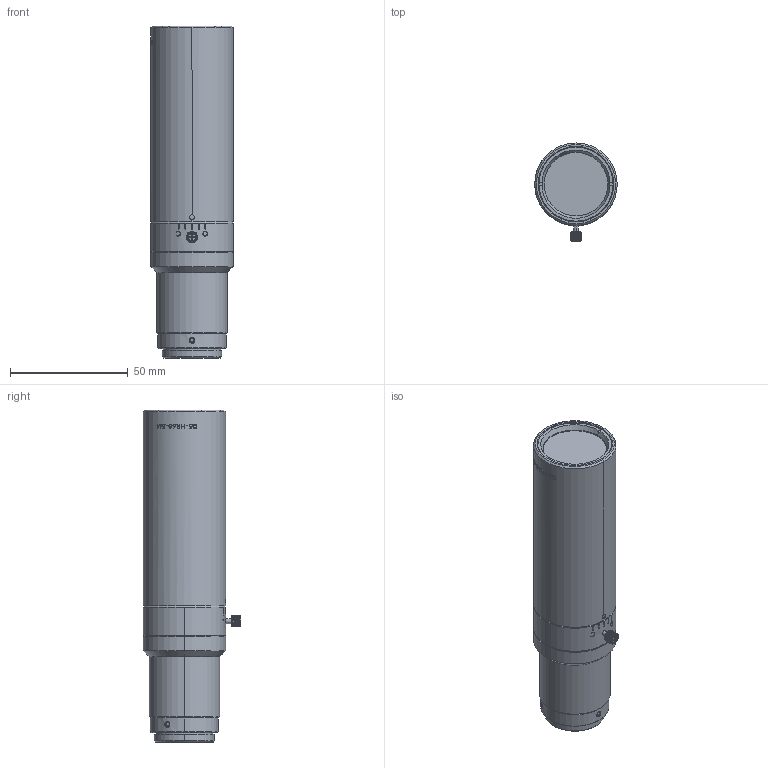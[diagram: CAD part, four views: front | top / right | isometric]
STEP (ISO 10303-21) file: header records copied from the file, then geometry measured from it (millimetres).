
FILE_DESCRIPTION (( 'STEP AP203' ), '1' );
FILE_NAME ('MML05-HR65VI-5M_A04191A0100101-002.STEP', '2013-04-05T05:35:54', ( 'MML Group' ), ( 'MORITEX' ), 'SwSTEP 2.0', 'SolidWorks 2011', '' );
FILE_SCHEMA (( 'CONFIG_CONTROL_DESIGN' ));
Length unit declared in the file: millimetre
Products named in the file (1): MML05-HR65VI-5M_A04191A0100101-002
Bounding box: 35 x 41.5 x 140.97 mm (x, y, z)
Volume: 119127.5 mm3; surface area: 19127.3 mm2
Topology: 1 solids, 4 shells, 501 faces, 1311 edges, 847 vertices
Faces by surface type: plane 177, cylinder 118, bspline 108, cone 92, torus 4, sphere 2
Entity records: 26668 total; most frequent: CARTESIAN_POINT 15636, ORIENTED_EDGE 2606, DIRECTION 1729, EDGE_CURVE 1303, VERTEX_POINT 847, AXIS2_PLACEMENT_3D 665, B_SPLINE_CURVE_WITH_KNOTS 628, EDGE_LOOP 548
